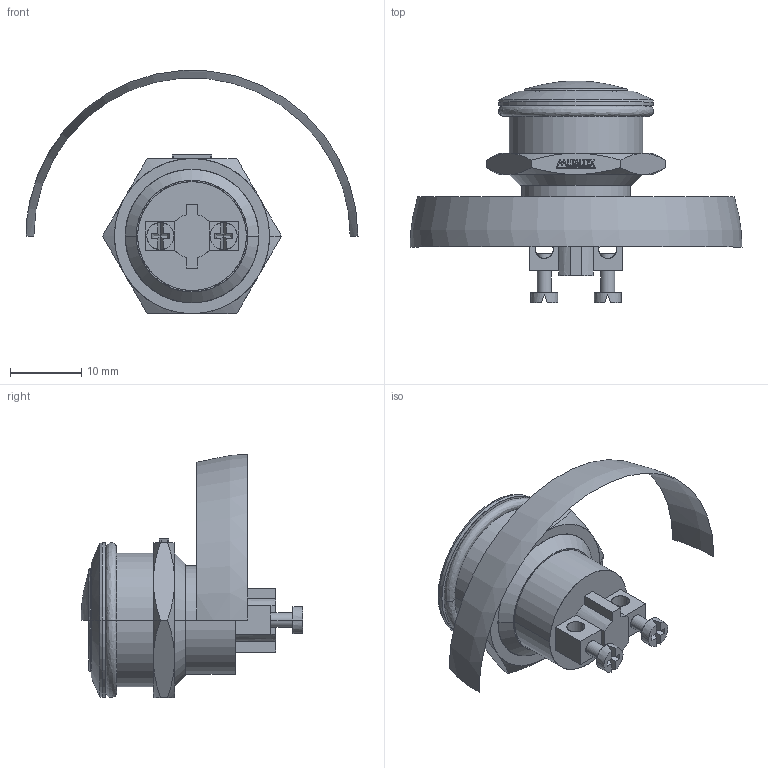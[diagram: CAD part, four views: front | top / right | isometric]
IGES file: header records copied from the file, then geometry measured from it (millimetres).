
Start section: SolidWorks IGES file using analytic representation for surfaces
Global section: file name: D:\X - Arquivos\PROEX\Empresas\P11 - METALTEX\01 - Produtos\IGES\Segunda remessa\AV19BA.IGS; native system: SolidWorks 2012; preprocessor: SolidWorks 2012; author: Usuario; date: 180117.123051; units: millimetre
Bounding box: 46.7 x 31.2 x 34.23 mm (x, y, z)
Surface area: 3242.1 mm2 (no closed solid volume)
Topology: 0 solids, 0 shells, 210 faces, 2114 edges, 2113 vertices
Faces by surface type: bspline 158, revolution 52
